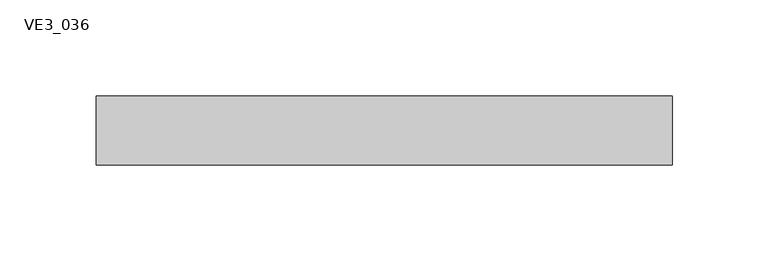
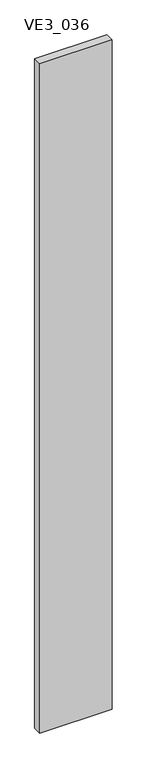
"""IFC4 building model written with IfcOpenShell, lengths in millimetres: plate geometry, TRP_CP_ARC_PF_RE_SE : VE3_036."""

from ifc_helpers import new_model, si_unit, frame, origin, place, context, project, spatial, polyline, outline, extrude, source, transform, mapped, element, save


def ve3_036_0f583615(model_context):
    return source(origin(), model_context, "Body", "SweptSolid", [
        extrude(outline(polyline([(150.0, 18.0), (150.0, -18.0), (-150.0, -18.0), (-150.0, 18.0), (150.0, 18.0)])), frame((0.0, 0.0, -3.1739529), z_axis=(0.0, 0.0, 1.0), x_axis=(1.0, 0.0, 0.0)), (0.0, 0.0, 1.0), 2933.1739529),
    ])


if __name__ == "__main__":
    model = new_model("IFC4")
    model_context = context("Model", 3, world=origin())
    ifc_project = project(units=[si_unit("LENGTHUNIT", "METRE", prefix="MILLI")], contexts=[model_context])
    site = spatial("IfcSite", under=ifc_project)
    building = spatial("IfcBuilding", under=site)
    placement = place(None, origin())
    ve3_036_shape = ve3_036_0f583615(model_context)
    element("IfcPlate", 1, ObjectType="TRP_CP_ARC_PF_RE_SE : VE3_036", at=placement, inside=building, context=model_context, shape_type="MappedRepresentation", body=[
        mapped(ve3_036_shape, transform((0.0, 0.0, 0.0), x_axis=(1.0, 0.0, 0.0), y_axis=(0.0, 1.0, 0.0), z_axis=(0.0, 0.0, 1.0))),
    ])
    save(model, "model.ifc")
